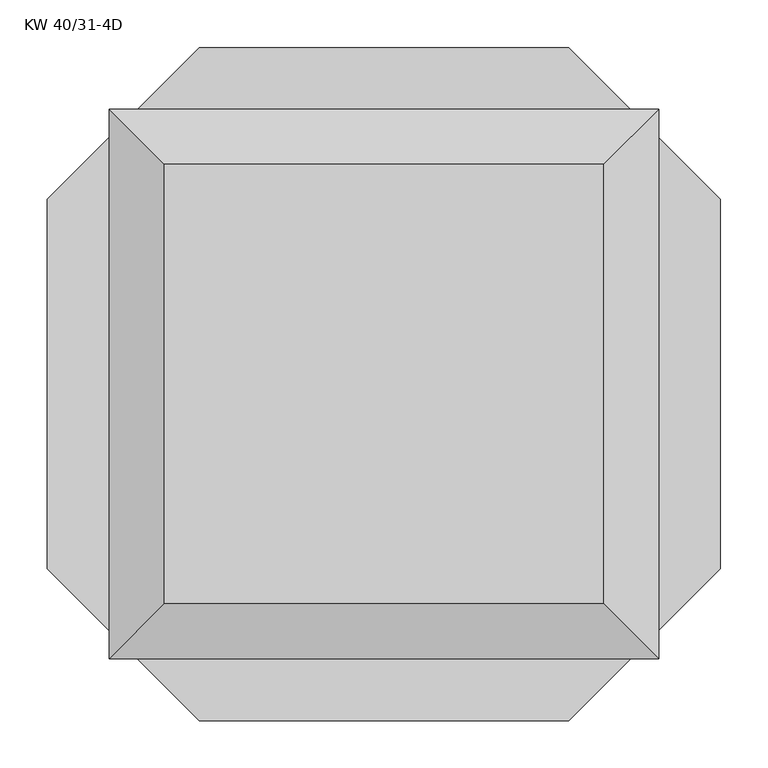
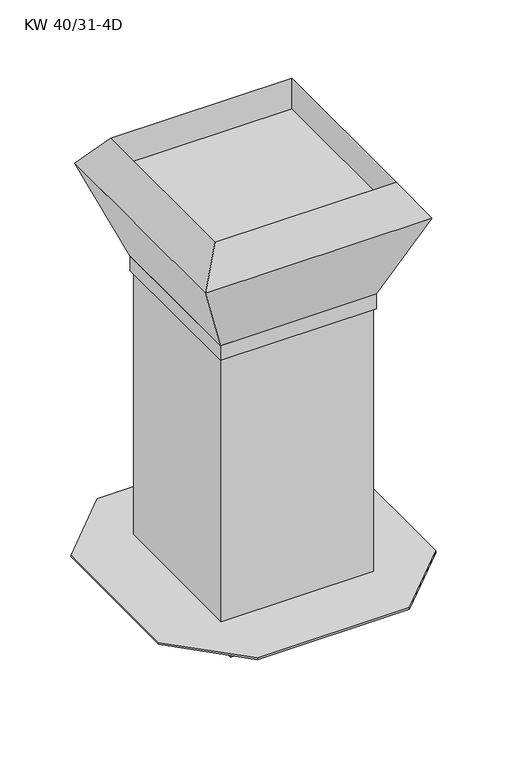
"""IFC4 building model written with IfcOpenShell, lengths in millimetres: proxy geometry, KORF_Вентилятор_Вытяжной_Крышный_KW : KW 40/31-4D."""

from ifc_helpers import new_model, si_unit, frame, origin, place, context, project, spatial, polyline, outline, extrude, faceted_brep, source, transform, mapped, element, save


def kw_40_31_4d_d219f473(model_context):
    return source(origin(), model_context, "Body", "SolidModel", [
        faceted_brep([(140.0, 164.0, -1.0), (140.0, 140.0, -1.0), (-140.0, 140.0, -1.0), (-140.0, 164.0, -1.0), (140.0, -140.0, -1.0), (140.0, -164.0, -1.0), (-140.0, -164.0, -1.0), (-140.0, -140.0, -1.0), (-140.0, 164.0, 0.0), (140.0, 164.0, 0.0), (-140.0, 140.0, 0.0), (140.0, 140.0, 0.0), (-140.0, -164.0, 0.0), (-140.0, -140.0, 0.0), (140.0, -164.0, 0.0), (140.0, -140.0, 0.0), (-164.0, 140.0, 0.0), (-164.0, -140.0, 0.0), (164.0, -140.0, 0.0), (164.0, 140.0, 0.0), (139.0, 139.0, 0.0), (139.0, -139.0, 0.0), (-139.0, -139.0, 0.0), (-139.0, 139.0, 0.0), (-164.0, 140.0, -1.0), (-164.0, -140.0, -1.0), (164.0, -140.0, -1.0), (164.0, 140.0, -1.0), (140.0, -140.0, -143.0), (-140.0, -140.0, -143.0), (-140.0, 140.0, -143.0), (140.0, 140.0, -143.0), (139.0, 139.0, -143.0), (-139.0, 139.0, -143.0), (-139.0, -139.0, -143.0), (139.0, -139.0, -143.0)], [[[0, 1, 2, 3]], [[4, 5, 6, 7]], [[0, 3, 8, 9]], [[3, 2, 10, 8]], [[1, 0, 9, 11]], [[7, 6, 12, 13]], [[6, 5, 14, 12]], [[5, 4, 15, 14]], [[16, 17, 13, 12, 14, 15, 18, 19, 11, 9, 8, 10], [20, 21, 22, 23]], [[24, 2, 7, 25]], [[26, 4, 1, 27]], [[17, 16, 24, 25]], [[13, 17, 25, 7]], [[16, 10, 2, 24]], [[19, 18, 26, 27]], [[11, 19, 27, 1]], [[18, 15, 4, 26]], [[28, 29, 30, 31], [32, 33, 34, 35]], [[28, 31, 1, 4]], [[31, 30, 2, 1]], [[30, 29, 7, 2]], [[29, 28, 4, 7]], [[21, 20, 32, 35]], [[22, 21, 35, 34]], [[23, 22, 34, 33]], [[20, 23, 33, 32]]]),
        faceted_brep([(195.0, 195.0, 757.0), (-195.0, 195.0, 757.0), (-195.0, -195.0, 757.0), (195.0, -195.0, 757.0), (195.0, 355.0, 0.0), (355.0, 195.0, 0.0), (355.0, -195.0, 0.0), (195.0, -355.0, 0.0), (-195.0, -355.0, 0.0), (-355.0, -195.0, 0.0), (-355.0, 195.0, 0.0), (-195.0, 355.0, 0.0), (195.0, 195.0, 5.0), (-195.0, 195.0, 5.0), (-195.0, -195.0, 5.0), (195.0, -195.0, 5.0), (195.0, 355.0, 5.0), (-195.0, 355.0, 5.0), (-355.0, 195.0, 5.0), (-355.0, -195.0, 5.0), (-195.0, -355.0, 5.0), (195.0, -355.0, 5.0), (355.0, -195.0, 5.0), (355.0, 195.0, 5.0)], [[[0, 1, 2, 3]], [[4, 5, 6, 7, 8, 9, 10, 11]], [[1, 0, 12, 13]], [[2, 1, 13, 14]], [[3, 2, 14, 15]], [[0, 3, 15, 12]], [[16, 17, 18, 19, 20, 21, 22, 23], [13, 12, 15, 14]], [[17, 16, 4, 11]], [[18, 17, 11, 10]], [[19, 18, 10, 9]], [[20, 19, 9, 8]], [[21, 20, 8, 7]], [[22, 21, 7, 6]], [[23, 22, 6, 5]], [[16, 23, 5, 4]]]),
        faceted_brep([(290.0, 290.0, 984.5), (290.0, -290.0, 984.5), (-290.0, -290.0, 984.5), (-290.0, 290.0, 984.5), (232.0, 232.0, 984.5), (-232.0, 232.0, 984.5), (-232.0, -232.0, 984.5), (232.0, -232.0, 984.5), (-232.0, 232.0, 1067.0), (232.0, 232.0, 1067.0), (-232.0, -232.0, 1067.0), (232.0, -232.0, 1067.0)], [[[0, 1, 2, 3], [4, 5, 6, 7]], [[0, 3, 8, 9]], [[3, 2, 10, 8]], [[2, 1, 11, 10]], [[1, 0, 9, 11]], [[8, 5, 4, 9]], [[5, 8, 10, 6]], [[6, 10, 11, 7]], [[9, 4, 7, 11]]]),
        faceted_brep([(290.0, 290.0, 984.5), (-290.0, 290.0, 984.5), (-290.0, -290.0, 984.5), (290.0, -290.0, 984.5), (200.0, 200.0, 757.0), (200.0, -200.0, 757.0), (-200.0, -200.0, 757.0), (-200.0, 200.0, 757.0)], [[[0, 1, 2, 3]], [[4, 5, 6, 7]], [[4, 7, 1, 0]], [[7, 6, 2, 1]], [[6, 5, 3, 2]], [[5, 4, 0, 3]]]),
        extrude(outline(polyline([(200.0, 200.0), (200.0, -200.0), (-200.0, -200.0), (-200.0, 200.0), (200.0, 200.0)]), holes=[polyline([(198.0, 198.0), (-198.0, 198.0), (-198.0, -198.0), (198.0, -198.0), (198.0, 198.0)])]), frame((0.0, 0.0, 717.0), z_axis=(0.0, 0.0, 1.0), x_axis=(1.0, 0.0, 0.0)), (0.0, 0.0, 1.0), 40.0),
    ])


if __name__ == "__main__":
    model = new_model("IFC4")
    model_context = context("Model", 3, world=origin())
    ifc_project = project(units=[si_unit("LENGTHUNIT", "METRE", prefix="MILLI")], contexts=[model_context])
    site = spatial("IfcSite", under=ifc_project)
    building = spatial("IfcBuilding", under=site)
    placement = place(None, origin())
    kw_40_31_4d_shape = kw_40_31_4d_d219f473(model_context)
    element("IfcBuildingElementProxy", 1, Name="KORF_Вентилятор_Вытяжной_Крышный_KW : KW 40/31-4D", ObjectType="KORF_Вентилятор_Вытяжной_Крышный_KW : KW 40/31-4D", at=placement, inside=building, context=model_context, shape_type="MappedRepresentation", body=[
        mapped(kw_40_31_4d_shape, transform((0.0, 0.0, 0.0), x_axis=(1.0, 0.0, 0.0), y_axis=(0.0, 1.0, 0.0), z_axis=(0.0, 0.0, 1.0))),
    ])
    save(model, "model.ifc")
